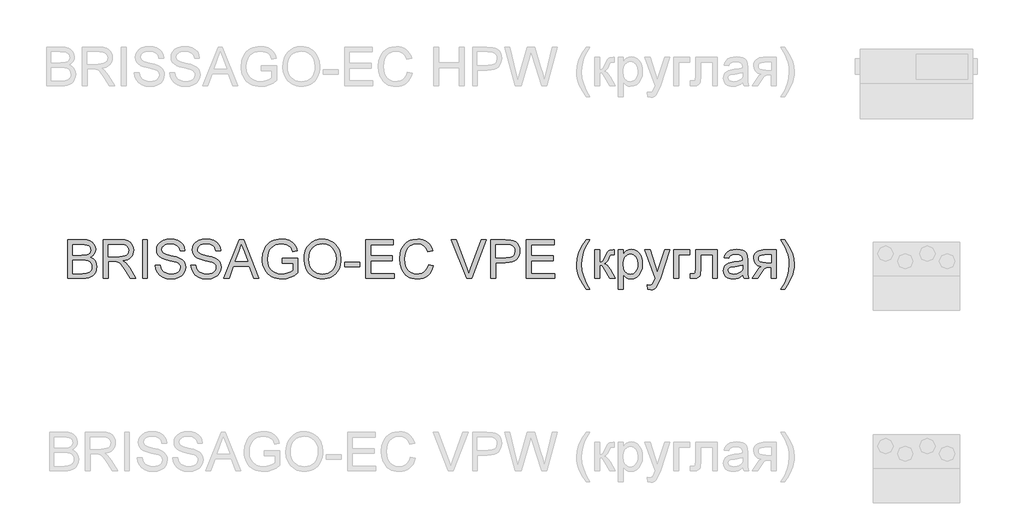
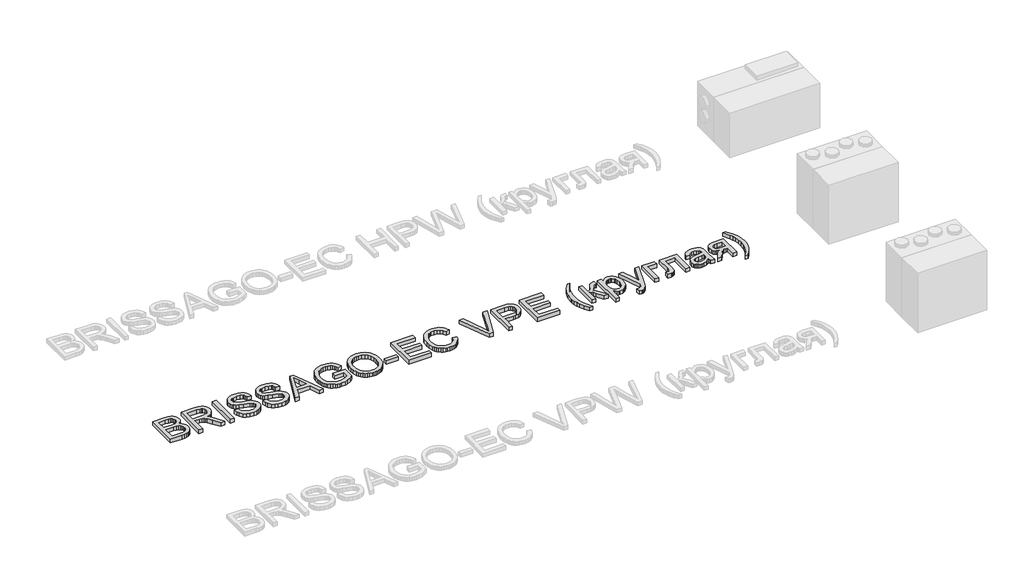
# One storey, part 6 of 28: 1 proxy.
"""IFC4 building model written with IfcOpenShell, lengths in millimetres."""

from ifc_helpers import new_model, si_unit, origin, origin_with_axes, place, context, project, spatial, polyline, outline, extrude, element, save

model = new_model("IFC4")

# Units and contexts
model_context = context("Model", 3, world=origin())
ifc_project = project(units=[si_unit("LENGTHUNIT", "METRE", prefix="MILLI")], contexts=[model_context])

# Site, building, storey
site = spatial("IfcSite", under=ifc_project)
building = spatial("IfcBuilding", under=site)
storey = spatial("IfcBuildingStorey", under=building, Name="Уровень 1", Elevation=0.0)

# Proxy
placement = place(None, origin())
element("IfcBuildingElementProxy", 1, Name="400 мм Arial", ObjectType="400 мм Arial", at=placement, inside=storey, context=model_context, shape_type="SweptSolid", body=[
    extrude(outline(polyline([(-29494.216891, -10348.7092589), (-29494.216891, -9946.8840183), (-29340.8836754, -9946.8840183), (-29298.712136, -9949.839337), (-29265.7866974, -9958.705293), (-29240.5499926, -9973.7026157), (-29221.4446543, -9995.0520342), (-29209.4149131, -10020.1661117), (-29205.4049993, -10046.4574116), (-29208.7772509, -10070.6517842), (-29218.8940058, -10093.3991542), (-29235.8288403, -10113.3015701), (-29259.6553309, -10128.9610804), (-29231.1935272, -10143.823513), (-29210.1629398, -10166.435993), (-29197.1767053, -10195.3024669), (-29192.8479605, -10228.9268812), (-29195.8032792, -10256.9472265), (-29204.6692353, -10282.9319581), (-29217.9007244, -10305.0294033), (-29233.9526421, -10321.3878893), (-29253.6098034, -10333.2336896), (-29277.6570232, -10341.7930773), (-29306.8791163, -10346.9802135), (-29342.0608978, -10348.7092589), (-29494.216891, -10348.7092589)]), holes=[polyline([(-29443.9887359, -10110.1255223), (-29352.2634918, -10110.1255223), (-29298.6998733, -10105.8090402), (-29279.9501543, -10098.3655611), (-29266.4734105, -10087.2187367), (-29258.3432184, -10072.5402451), (-29255.6331544, -10054.5017646), (-29258.1592774, -10036.9905816), (-29265.7376465, -10021.7357415), (-29278.0249052, -10009.8286276), (-29294.6776968, -10002.3606231), (-29320.2332327, -9998.4242858), (-29359.2287242, -9997.1121733), (-29443.9887359, -9997.1121733), (-29443.9887359, -10110.1255223)]), polyline([(-29443.9887359, -10298.4811038), (-29340.9817773, -10298.4811038), (-29303.7030684, -10296.5190665), (-29272.1633187, -10285.5807085), (-29260.5872986, -10276.1506667), (-29251.2676214, -10263.2625341), (-29245.1239921, -10247.4926593), (-29243.0761156, -10229.4173906), (-29245.4796113, -10208.4235914), (-29252.6900984, -10190.3728481), (-29265.2839254, -10176.2584423), (-29283.8374407, -10167.0736551), (-29310.1164779, -10162.0336718), (-29345.8868705, -10160.3536773), (-29443.9887359, -10160.3536773), (-29443.9887359, -10298.4811038)])]), origin_with_axes(), (0.0, 0.0, 1.0), 50.0),
    extrude(outline(polyline([(-29123.7842473, -10348.7092589), (-29123.7842473, -9946.8840183), (-28950.6344549, -9946.8840183), (-28904.0973825, -9949.5940823), (-28870.2399762, -9957.7242744), (-28845.4937807, -9972.7338598), (-28826.2903405, -9996.0821037), (-28813.9662937, -10025.0344168), (-28809.8582781, -10056.8562094), (-28811.5597323, -10077.4943893), (-28816.664095, -10096.440312), (-28825.1713661, -10113.6939776), (-28837.0815457, -10129.255386), (-28852.547918, -10142.6278965), (-28871.7237669, -10153.3148685), (-28894.6090927, -10161.3163019), (-28921.2038953, -10166.6321967), (-28892.6562525, -10188.1165052), (-28851.9439783, -10239.8161883), (-28784.9404043, -10348.7092589), (-28843.3110142, -10348.7092589), (-28895.5993084, -10265.4207751), (-28933.3685266, -10210.2875268), (-28947.4093561, -10194.2110836), (-28959.9050812, -10184.2414815), (-28983.7928854, -10174.6765497), (-29012.9291394, -10172.9107161), (-29073.5560922, -10172.9107161), (-29073.5560922, -10348.7092589), (-29123.7842473, -10348.7092589)]), holes=[polyline([(-29073.5560922, -10122.682561), (-28961.1313545, -10122.682561), (-28928.8435781, -10120.9044647), (-28903.7908142, -10115.5701758), (-28884.9307306, -10106.324075), (-28871.2209949, -10092.810543), (-28862.8700736, -10076.4643197), (-28860.0864332, -10058.7201448), (-28865.3961966, -10034.2192039), (-28881.325487, -10014.4762035), (-28893.4870526, -10006.8794403), (-28908.7326957, -10001.4531809), (-28948.4762139, -9997.1121733), (-29073.5560922, -9997.1121733), (-29073.5560922, -10122.682561)])]), origin_with_axes(), (0.0, 0.0, 1.0), 50.0),
    extrude(outline(polyline([(-28715.6804873, -10348.7092589), (-28715.6804873, -9946.8840183), (-28665.4523323, -9946.8840183), (-28665.4523323, -10348.7092589), (-28715.6804873, -10348.7092589)])), origin_with_axes(), (0.0, 0.0, 1.0), 50.0),
    extrude(outline(polyline([(-28583.8315803, -10210.5818324), (-28533.6034252, -10210.5818324), (-28527.8399406, -10238.4550249), (-28517.4166174, -10260.8590384), (-28501.1562332, -10278.6400015), (-28477.8815656, -10292.6440428), (-28449.4320247, -10301.7307281), (-28417.6470203, -10304.7596232), (-28389.6634632, -10302.4664921), (-28365.1625223, -10295.5870988), (-28345.3091573, -10284.6977917), (-28331.2683278, -10270.3749194), (-28322.9174065, -10253.9305942), (-28320.1337661, -10236.6769286), (-28322.2184308, -10219.8647214), (-28328.4724247, -10205.3333826), (-28341.1766162, -10192.9357594), (-28362.6118738, -10182.5246989), (-28435.7468145, -10163.3457842), (-28483.7554148, -10150.6538554), (-28514.4735614, -10138.5750632), (-28539.4772744, -10121.6770169), (-28557.1969238, -10101.1982525), (-28567.7551371, -10077.5802284), (-28571.2745415, -10051.264403), (-28566.9212712, -10021.8461061), (-28553.8614604, -9994.414372), (-28532.4384655, -9971.1642299), (-28502.9956432, -9954.2907091), (-28467.6544462, -9944.0268014), (-28428.5363274, -9940.6054989), (-28386.1563215, -9944.186217), (-28349.0738164, -9954.9283712), (-28318.6131872, -9972.6112325), (-28296.0988091, -9997.0140715), (-28281.8495131, -10026.6163093), (-28276.1841304, -10059.8973672), (-28326.4122855, -10059.8973672), (-28335.6338608, -10029.9272473), (-28343.9970449, -10018.0691843), (-28354.8618265, -10008.295786), (-28384.9055227, -9995.199187), (-28426.5742901, -9990.8336539), (-28469.224076, -9995.150136), (-28485.5273798, -10000.5457386), (-28498.4829574, -10008.0995823), (-28515.4055292, -10027.1558696), (-28521.0463864, -10049.792875), (-28517.0487354, -10069.0944171), (-28505.0557824, -10084.6190373), (-28476.7043433, -10098.5004512), (-28423.0426229, -10112.6761708), (-28367.6641199, -10126.1406518), (-28334.1623329, -10137.8883502), (-28305.5288509, -10156.1107716), (-28285.5528586, -10178.6006243), (-28273.8174229, -10205.1126534), (-28269.905611, -10235.4016043), (-28274.4060341, -10266.3650056), (-28287.9073033, -10295.4889969), (-28309.8575957, -10320.5540235), (-28339.7050883, -10339.3405307), (-28375.5981083, -10351.0759664), (-28415.684983, -10354.9877782), (-28464.8953312, -10350.769398), (-28505.3991389, -10338.1142574), (-28537.6623899, -10316.9733054), (-28562.151068, -10287.2974911), (-28577.8718919, -10251.1469537), (-28583.8315803, -10210.5818324)])), origin_with_axes(), (0.0, 0.0, 1.0), 50.0),
    extrude(outline(polyline([(-28213.3989366, -10210.5818324), (-28163.1707815, -10210.5818324), (-28157.4072969, -10238.4550249), (-28146.9839737, -10260.8590384), (-28130.7235895, -10278.6400015), (-28107.448922, -10292.6440428), (-28078.999381, -10301.7307281), (-28047.2143766, -10304.7596232), (-28019.2308195, -10302.4664921), (-27994.7298786, -10295.5870988), (-27974.8765136, -10284.6977917), (-27960.8356842, -10270.3749194), (-27952.4847629, -10253.9305942), (-27949.7011224, -10236.6769286), (-27951.7857871, -10219.8647214), (-27958.039781, -10205.3333826), (-27970.7439726, -10192.9357594), (-27992.1792301, -10182.5246989), (-28065.3141708, -10163.3457842), (-28113.3227712, -10150.6538554), (-28144.0409178, -10138.5750632), (-28169.0446307, -10121.6770169), (-28186.7642801, -10101.1982525), (-28197.3224934, -10077.5802284), (-28200.8418978, -10051.264403), (-28196.4886275, -10021.8461061), (-28183.4288167, -9994.414372), (-28162.0058219, -9971.1642299), (-28132.5629995, -9954.2907091), (-28097.2218025, -9944.0268014), (-28058.1036837, -9940.6054989), (-28015.7236778, -9944.186217), (-27978.6411727, -9954.9283712), (-27948.1805435, -9972.6112325), (-27925.6661654, -9997.0140715), (-27911.4168695, -10026.6163093), (-27905.7514867, -10059.8973672), (-27955.9796418, -10059.8973672), (-27965.2012172, -10029.9272473), (-27973.5644012, -10018.0691843), (-27984.4291828, -10008.295786), (-28014.4728791, -9995.199187), (-28056.1416464, -9990.8336539), (-28098.7914323, -9995.150136), (-28115.0947361, -10000.5457386), (-28128.0503137, -10008.0995823), (-28144.9728855, -10027.1558696), (-28150.6137427, -10049.792875), (-28146.6160917, -10069.0944171), (-28134.6231387, -10084.6190373), (-28106.2716996, -10098.5004512), (-28052.6099792, -10112.6761708), (-27997.2314762, -10126.1406518), (-27963.7296892, -10137.8883502), (-27935.0962072, -10156.1107716), (-27915.1202149, -10178.6006243), (-27903.3847792, -10205.1126534), (-27899.4729674, -10235.4016043), (-27903.9733904, -10266.3650056), (-27917.4746597, -10295.4889969), (-27939.424952, -10320.5540235), (-27969.2724446, -10339.3405307), (-28005.1654646, -10351.0759664), (-28045.2523393, -10354.9877782), (-28094.4626875, -10350.769398), (-28134.9664952, -10338.1142574), (-28167.2297462, -10316.9733054), (-28191.7184243, -10287.2974911), (-28207.4392483, -10251.1469537), (-28213.3989366, -10210.5818324)])), origin_with_axes(), (0.0, 0.0, 1.0), 50.0),
    extrude(outline(polyline([(-27870.9253245, -10348.7092589), (-27710.5287746, -9946.8840183), (-27667.7563613, -9946.8840183), (-27507.3598114, -10348.7092589), (-27560.4329206, -10348.7092589), (-27606.4426955, -10223.1388712), (-27771.9405424, -10223.1388712), (-27817.8522154, -10348.7092589), (-27870.9253245, -10348.7092589)]), holes=[polyline([(-27753.4973917, -10172.9107161), (-27624.7877443, -10172.9107161), (-27660.9873326, -10074.1221377), (-27689.142568, -9997.1121733), (-27714.1585437, -10065.4891735), (-27753.4973917, -10172.9107161)])]), origin_with_axes(), (0.0, 0.0, 1.0), 50.0),
    extrude(outline(polyline([(-27265.3425095, -10191.7462742), (-27265.3425095, -10141.5181192), (-27102.1010055, -10141.5181192), (-27102.1010055, -10291.7120751), (-27141.7709474, -10319.3032247), (-27182.691688, -10339.0952761), (-27224.7651255, -10351.0146527), (-27267.893158, -10354.9877782), (-27296.7443035, -10353.4089513), (-27324.240417, -10348.6724707), (-27350.3814984, -10340.7783362), (-27375.1675478, -10329.7265479), (-27397.7984219, -10315.6826527), (-27417.4739773, -10298.8121976), (-27434.194214, -10279.1151824), (-27447.9591319, -10256.5916073), (-27458.7104833, -10231.9619077), (-27466.3900199, -10205.9465193), (-27470.9977419, -10178.545442), (-27472.5336492, -10149.7586759), (-27466.4145454, -10093.1661623), (-27458.7656656, -10066.3506305), (-27448.0572338, -10040.5222488), (-27434.4793225, -10016.8153199), (-27418.222004, -9996.3641466), (-27399.2852783, -9979.168729), (-27377.6691454, -9965.2290671), (-27353.8426548, -9954.456256), (-27328.2748562, -9946.7613909), (-27300.9657494, -9942.1444719), (-27271.9153345, -9940.6054989), (-27230.5408728, -9944.1739542), (-27193.3357404, -9954.8793203), (-27162.0044571, -9971.9490449), (-27138.2515429, -9994.6105758), (-27120.6790463, -10023.9552962), (-27107.8890156, -10061.0745896), (-27154.1930961, -10074.1221377), (-27164.5305801, -10047.6468967), (-27177.0998816, -10027.6709044), (-27193.7281478, -10012.6122681), (-27216.2425259, -10000.8890952), (-27243.0856488, -9993.3475143), (-27272.7001494, -9990.8336539), (-27307.3668961, -9993.543718), (-27337.0059222, -10001.6739101), (-27361.5068631, -10014.2064234), (-27380.7593542, -10030.123451), (-27395.5359476, -10048.6033899), (-27406.6091957, -10068.8246369), (-27418.3814195, -10106.7410079), (-27422.3054942, -10147.6985367), (-27417.5843419, -10195.7316625), (-27403.4208851, -10235.2544515), (-27380.2443194, -10265.9848609), (-27348.4838405, -10287.6408477), (-27311.3154962, -10300.4799293), (-27271.9153345, -10304.7596232), (-27237.1259605, -10301.5345243), (-27203.1949778, -10291.8592279), (-27173.72763, -10278.5296369), (-27152.3291606, -10264.3416546), (-27152.3291606, -10191.7462742), (-27265.3425095, -10191.7462742)])), origin_with_axes(), (0.0, 0.0, 1.0), 50.0),
    extrude(outline(polyline([(-27039.3158117, -10153.0941393), (-27035.9680856, -10105.9623243), (-27025.9249071, -10064.2383747), (-27009.1862763, -10027.9222904), (-26985.7521932, -9997.0140715), (-26957.0267408, -9972.335321), (-26924.4140019, -9954.707642), (-26887.9139766, -9944.1310347), (-26847.5266649, -9940.6054989), (-26820.4934696, -9942.2609679), (-26794.8214377, -9947.2273748), (-26770.5105692, -9955.5047197), (-26747.5608641, -9967.0930025), (-26726.6161158, -9981.6427354), (-26708.3201179, -9998.8044305), (-26692.6728704, -10018.5780878), (-26679.6743732, -10040.9637072), (-26669.4595165, -10065.4523853), (-26662.1631903, -10091.5352188), (-26656.3261293, -10148.4833516), (-26657.8620366, -10178.1407718), (-26662.4697586, -10206.1917739), (-26670.1492952, -10232.636358), (-26680.9006465, -10257.4745241), (-26694.4693608, -10280.0502158), (-26710.6009863, -10299.7073771), (-26729.295523, -10316.4460079), (-26750.552971, -10330.2661082), (-26773.5363986, -10341.0818388), (-26797.4088744, -10348.8073607), (-26822.1703984, -10353.4426739), (-26847.8209705, -10354.9877782), (-26875.326281, -10353.2801926), (-26901.335538, -10348.1574359), (-26925.8487417, -10339.6195079), (-26948.8658918, -10327.6664087), (-26969.7861146, -10312.7610566), (-26988.0085361, -10295.3663696), (-27003.5331563, -10275.4823477), (-27016.3599752, -10253.108991), (-27033.5768526, -10204.487254), (-27039.3158117, -10153.0941393)]), holes=[polyline([(-26989.0876566, -10153.5846486), (-26986.576862, -10186.8841005), (-26979.0444782, -10216.4434189), (-26966.4905051, -10242.2626036), (-26948.9149428, -10264.3416546), (-26927.5501959, -10282.0245159), (-26903.6286692, -10294.655131), (-26877.1503625, -10302.2335001), (-26848.1152761, -10304.7596232), (-26818.5835489, -10302.2089747), (-26791.7925426, -10294.5570292), (-26767.7422572, -10281.8037867), (-26746.4326926, -10263.9492472), (-26728.985889, -10241.4042122), (-26716.5238864, -10214.5794834), (-26709.0466849, -10183.4750607), (-26706.5542843, -10148.0909442), (-26710.8217155, -10103.6262737), (-26723.6240089, -10065.1948679), (-26744.6300708, -10033.7654828), (-26773.5088075, -10010.3068742), (-26808.3472324, -9995.701959), (-26847.2323593, -9990.8336539), (-26875.258836, -9993.1789017), (-26901.2619616, -10000.2146448), (-26925.2417364, -10011.9408834), (-26947.1981601, -10028.3576175), (-26965.5248148, -10050.2557932), (-26978.6152825, -10078.426357), (-26986.4695631, -10112.8693088), (-26989.0876566, -10153.5846486)])]), origin_with_axes(), (0.0, 0.0, 1.0), 50.0),
    extrude(outline(polyline([(-26618.655013, -10229.4173906), (-26618.655013, -10179.1892355), (-26461.6920283, -10179.1892355), (-26461.6920283, -10229.4173906), (-26618.655013, -10229.4173906)])), origin_with_axes(), (0.0, 0.0, 1.0), 50.0),
    extrude(outline(polyline([(-26398.9068345, -10348.7092589), (-26398.9068345, -9946.8840183), (-26110.0949428, -9946.8840183), (-26110.0949428, -9997.1121733), (-26348.6786794, -9997.1121733), (-26348.6786794, -10116.4040416), (-26122.6519816, -10116.4040416), (-26122.6519816, -10166.6321967), (-26348.6786794, -10166.6321967), (-26348.6786794, -10298.4811038), (-26103.8164234, -10298.4811038), (-26103.8164234, -10348.7092589), (-26398.9068345, -10348.7092589)])), origin_with_axes(), (0.0, 0.0, 1.0), 50.0),
    extrude(outline(polyline([(-25745.9408185, -10205.8729429), (-25695.7126635, -10218.8223891), (-25705.6516087, -10250.0586362), (-25718.8892292, -10277.3524145), (-25735.4255248, -10300.7037242), (-25755.2604957, -10320.1125651), (-25777.9465521, -10335.3704708), (-25803.0361042, -10346.268975), (-25830.529152, -10352.8080774), (-25860.4256954, -10354.9877782), (-25891.0549372, -10353.3384406), (-25918.6859407, -10348.3904278), (-25943.318706, -10340.1437397), (-25964.953233, -10328.5983765), (-25983.886893, -10313.9260162), (-26000.4170573, -10296.2983373), (-26014.5437259, -10275.7153396), (-26026.2668989, -10252.1770233), (-26042.0490364, -10200.305662), (-26047.309749, -10144.7554807), (-26041.3623234, -10086.1641416), (-26033.9280414, -10059.8667103), (-26023.5200466, -10035.5681046), (-26010.371331, -10013.6699288), (-25994.7148864, -9994.5737876), (-25976.5507129, -9978.2796809), (-25955.8788104, -9964.7876087), (-25933.4012205, -9954.2079356), (-25909.8199846, -9946.6510263), (-25859.3465749, -9940.6054989), (-25830.6180568, -9942.5614048), (-25804.2746402, -9948.4291226), (-25780.3163253, -9958.2086523), (-25758.743112, -9971.8999939), (-25739.9106195, -9989.1413968), (-25724.1744671, -10009.5711102), (-25711.5346549, -10033.1891343), (-25701.9911828, -10059.995469), (-25752.2193379, -10071.9638966), (-25769.632419, -10035.3351126), (-25793.4221214, -10010.2087724), (-25823.8827506, -9995.6774336), (-25861.3086122, -9990.8336539), (-25904.4489075, -9996.2047311), (-25923.1311815, -10002.9185775), (-25939.8882064, -10012.3179625), (-25966.7803802, -10037.4810909), (-25984.2793005, -10070.0018593), (-25993.8810205, -10106.7655334), (-25997.0815939, -10144.6573789), (-25993.2924094, -10191.0595612), (-25981.9248557, -10231.1832241), (-25962.5497373, -10263.495526), (-25934.7378585, -10286.4636253), (-25901.395487, -10300.1856237), (-25865.4288906, -10304.7596232), (-25843.5920285, -10303.2022561), (-25823.5026058, -10298.5301547), (-25805.1606227, -10290.7433192), (-25788.566079, -10279.8417494), (-25774.1113823, -10265.8744963), (-25762.18894, -10248.8906108), (-25752.7987521, -10228.890093), (-25745.9408185, -10205.8729429)])), origin_with_axes(), (0.0, 0.0, 1.0), 50.0),
    extrude(outline(polyline([(-25350.9827085, -10348.7092589), (-25510.8887491, -9946.8840183), (-25457.1289268, -9946.8840183), (-25350.0997917, -10236.382623), (-25328.4192795, -10301.6203635), (-25307.0330728, -10236.382623), (-25199.7096321, -9946.8840183), (-25145.9498099, -9946.8840183), (-25299.0868217, -10348.7092589), (-25350.9827085, -10348.7092589)])), origin_with_axes(), (0.0, 0.0, 1.0), 50.0),
    extrude(outline(polyline([(-25099.2533219, -10348.7092589), (-25099.2533219, -9946.8840183), (-24950.3346903, -9946.8840183), (-24890.2963487, -9950.709991), (-24863.5268022, -9957.8591644), (-24841.4906707, -9969.4964982), (-24823.7464958, -9986.1492899), (-24809.8528191, -10008.3448369), (-24800.8764984, -10034.5257722), (-24797.8843915, -10063.1347287), (-24799.9046768, -10087.8012165), (-24805.9655327, -10110.4934042), (-24816.0669591, -10131.2112919), (-24830.2089561, -10149.9548796), (-24849.6239284, -10165.4917625), (-24875.5442807, -10176.589536), (-24907.9700129, -10183.2482002), (-24946.901125, -10185.4677549), (-25049.0251669, -10185.4677549), (-25049.0251669, -10348.7092589), (-25099.2533219, -10348.7092589)]), holes=[polyline([(-25049.0251669, -10135.2395998), (-24943.958069, -10135.2395998), (-24899.4198222, -10130.6288121), (-24882.8160814, -10124.8653275), (-24869.9892625, -10116.7964491), (-24860.4181993, -10106.6367747), (-24853.5817256, -10094.6009021), (-24848.1125466, -10064.9005623), (-24851.3376454, -10042.3371333), (-24861.0129419, -10023.3053714), (-24875.9366881, -10008.982499), (-24894.9071364, -10000.5457386), (-24945.1352914, -9997.1121733), (-25049.0251669, -9997.1121733), (-25049.0251669, -10135.2395998)])]), origin_with_axes(), (0.0, 0.0, 1.0), 50.0),
    extrude(outline(polyline([(-24728.8206783, -10348.7092589), (-24728.8206783, -9946.8840183), (-24440.0087866, -9946.8840183), (-24440.0087866, -9997.1121733), (-24678.5925232, -9997.1121733), (-24678.5925232, -10116.4040416), (-24452.5658254, -10116.4040416), (-24452.5658254, -10166.6321967), (-24678.5925232, -10166.6321967), (-24678.5925232, -10298.4811038), (-24433.7302672, -10298.4811038), (-24433.7302672, -10348.7092589), (-24728.8206783, -10348.7092589)])), origin_with_axes(), (0.0, 0.0, 1.0), 50.0),
    extrude(outline(polyline([(-24107.2472592, -10461.7226078), (-24146.1691743, -10407.1043942), (-24178.5673153, -10343.9022675), (-24191.3144265, -10309.8486574), (-24200.4195059, -10275.1819108), (-24205.8825535, -10239.9020274), (-24207.7035694, -10204.0090074), (-24202.2589158, -10141.5916956), (-24185.9249552, -10081.872185), (-24153.5022887, -10014.2309488), (-24107.2472592, -9946.8840183), (-24069.5761429, -9946.8840183), (-24116.5669364, -10026.4446311), (-24132.6065914, -10064.2138493), (-24144.8202737, -10103.5526973), (-24154.3116291, -10153.8053778), (-24157.4754143, -10204.303313), (-24151.9817098, -10268.6949249), (-24135.5005964, -10333.0620113), (-24108.0320741, -10397.4045723), (-24069.5761429, -10461.7226078), (-24107.2472592, -10461.7226078)])), origin_with_axes(), (0.0, 0.0, 1.0), 50.0),
    extrude(outline(polyline([(-24019.3479878, -10053.6188478), (-23969.1198328, -10053.6188478), (-23969.1198328, -10179.1892355), (-23948.6901193, -10176.9328926), (-23935.4708929, -10170.1638639), (-23923.7722455, -10152.5055281), (-23907.9042688, -10117.581264), (-23884.9974832, -10072.2091513), (-23875.5551787, -10063.0488896), (-23864.7884989, -10057.4448205), (-23828.0493503, -10053.6188478), (-23818.4353675, -10053.6188478), (-23818.4353675, -10104.1413085), (-23831.973425, -10103.8470029), (-23847.6697234, -10105.1713781), (-23856.4988913, -10109.1445036), (-23873.7648196, -10142.2048322), (-23884.3720838, -10164.2409637), (-23894.0228548, -10177.9629622), (-23905.7092395, -10187.1232238), (-23922.4233448, -10195.4741451), (-23906.5063172, -10202.5436108), (-23890.7364423, -10215.0209418), (-23875.1137203, -10232.9061381), (-23859.638151, -10256.1991998), (-23805.8783288, -10348.7092589), (-23862.9736144, -10348.7092589), (-23915.6543161, -10258.1612371), (-23929.8790866, -10234.0649664), (-23942.1418198, -10219.8524587), (-23954.5271803, -10212.899489), (-23969.1198328, -10210.5818324), (-23969.1198328, -10348.7092589), (-24019.3479878, -10348.7092589), (-24019.3479878, -10053.6188478)])), origin_with_axes(), (0.0, 0.0, 1.0), 50.0),
    extrude(outline(polyline([(-23774.4857318, -10461.7226078), (-23774.4857318, -10053.6188478), (-23724.2575768, -10053.6188478), (-23724.2575768, -10102.8659842), (-23707.8745653, -10078.5735098), (-23689.5295164, -10061.2217424), (-23668.1433098, -10050.8106819), (-23642.6368248, -10047.3403284), (-23608.6690539, -10052.1963707), (-23578.9687141, -10066.7644978), (-23554.7866043, -10090.1617926), (-23537.3735232, -10121.5053386), (-23526.8520982, -10158.5142674), (-23523.3449565, -10198.9077104), (-23527.3058193, -10241.8640647), (-23539.1884077, -10280.2832078), (-23558.6125771, -10312.2153649), (-23585.1981826, -10335.7107617), (-23616.1615839, -10350.1685241), (-23648.7191404, -10354.9877782), (-23671.809867, -10351.7626794), (-23692.4235215, -10342.0873829), (-23710.0695945, -10327.4824677), (-23724.2575768, -10309.4685127), (-23724.2575768, -10461.7226078), (-23774.4857318, -10461.7226078)]), holes=[polyline([(-23724.2575768, -10203.5184981), (-23718.825186, -10248.5472543), (-23712.0346975, -10265.9848609), (-23702.5280136, -10280.0379531), (-23678.4807938, -10298.5792056), (-23664.7189415, -10303.2145188), (-23649.7982609, -10304.7596232), (-23634.6629825, -10303.1593365), (-23620.6497442, -10298.3584765), (-23607.7585459, -10290.3570431), (-23595.9893878, -10279.1550363), (-23586.1822669, -10264.5930407), (-23579.1771806, -10246.5116406), (-23574.9741288, -10224.9108361), (-23573.5731115, -10199.7906272), (-23579.0422905, -10155.0071257), (-23585.8787643, -10137.434629), (-23595.4498275, -10123.0749685), (-23619.4602591, -10103.9451047), (-23633.0657615, -10099.1626388), (-23647.7381218, -10097.5684835), (-23662.3644968, -10099.2638063), (-23676.1263491, -10104.3497749), (-23701.0564856, -10124.6936493), (-23711.206963, -10139.7921395), (-23718.457304, -10157.9624444), (-23722.8075086, -10179.2045639), (-23724.2575768, -10203.5184981)])]), origin_with_axes(), (0.0, 0.0, 1.0), 50.0),
    extrude(outline(polyline([(-23466.838282, -10461.7226078), (-23473.1168014, -10413.3583881), (-23447.6103164, -10417.7729721), (-23434.1948863, -10416.3872832), (-23423.7715631, -10412.2302167), (-23409.1543852, -10396.7791729), (-23395.420124, -10359.7947696), (-23391.4960494, -10347.6301383), (-23498.2308789, -10053.6188478), (-23445.2558716, -10053.6188478), (-23388.6510953, -10217.448963), (-23368.9326204, -10282.9810091), (-23349.2141454, -10225.1009085), (-23291.0397392, -10053.6188478), (-23238.4571394, -10053.6188478), (-23341.1697925, -10355.7725932), (-23367.8534998, -10421.3046392), (-23381.5141846, -10442.224862), (-23396.9897539, -10456.7194126), (-23414.9669207, -10465.1806985), (-23436.1323981, -10468.0011272), (-23466.838282, -10461.7226078)])), origin_with_axes(), (0.0, 0.0, 1.0), 50.0),
    extrude(outline(polyline([(-23196.8619485, -10053.6188478), (-23033.6204445, -10053.6188478), (-23033.6204445, -10103.8470029), (-23146.6337934, -10103.8470029), (-23146.6337934, -10348.7092589), (-23196.8619485, -10348.7092589), (-23196.8619485, -10053.6188478)])), origin_with_axes(), (0.0, 0.0, 1.0), 50.0),
    extrude(outline(polyline([(-22970.8352506, -10053.6188478), (-22744.8085528, -10053.6188478), (-22744.8085528, -10348.4149533), (-22795.0367079, -10348.4149533), (-22795.0367079, -10103.8470029), (-22920.6070956, -10103.8470029), (-22920.6070956, -10244.6231797), (-22923.9916099, -10309.5666146), (-22930.331443, -10324.2696316), (-22942.5819134, -10336.9860859), (-22961.1722169, -10345.7784656), (-22986.5315491, -10348.7092589), (-23027.3419251, -10346.1586104), (-23027.3419251, -10298.4811038), (-23004.8765979, -10298.4811038), (-22982.1660161, -10295.390895), (-22973.0915936, -10285.5807085), (-22970.8352506, -10241.7782256), (-22970.8352506, -10053.6188478)])), origin_with_axes(), (0.0, 0.0, 1.0), 50.0),
    extrude(outline(polyline([(-22481.1107387, -10311.0381426), (-22505.1089075, -10331.6150088), (-22529.8183148, -10345.0794898), (-22555.8030464, -10352.5107061), (-22583.627188, -10354.9877782), (-22605.9913476, -10353.4978562), (-22625.6025236, -10349.0280899), (-22642.4607161, -10341.5784795), (-22656.5659249, -10331.149025), (-22667.7035523, -10318.4019138), (-22675.6590005, -10303.9993337), (-22680.4322693, -10287.9412846), (-22682.023359, -10270.2277666), (-22679.6198633, -10249.4056456), (-22672.4093762, -10230.4965111), (-22661.2870772, -10214.3097033), (-22647.1481458, -10201.6545627), (-22630.5321424, -10192.0896308), (-22611.9786271, -10185.1734493), (-22568.5195007, -10177.6196056), (-22517.1631742, -10169.6733545), (-22481.4050443, -10160.3536773), (-22481.1107387, -10149.1700647), (-22484.5688294, -10126.7537884), (-22494.9431017, -10112.0875596), (-22518.1441928, -10101.1982525), (-22550.4687575, -10097.5684835), (-22580.3898264, -10099.9842419), (-22601.2855238, -10107.2315172), (-22615.5348197, -10120.6346846), (-22625.5166845, -10141.5181192), (-22675.7448396, -10135.2395998), (-22667.0260363, -10107.7710775), (-22654.0152764, -10086.1886671), (-22635.4985493, -10069.6830282), (-22610.2618444, -10057.4448205), (-22579.396545, -10049.8664514), (-22543.9940344, -10047.3403284), (-22510.0385262, -10049.5721458), (-22483.1218269, -10056.2675982), (-22462.8270035, -10066.3353021), (-22448.7371231, -10078.6838744), (-22439.3929204, -10093.9509772), (-22433.3351302, -10112.7742726), (-22430.8825836, -10156.7239083), (-22430.8825836, -10219.2147966), (-22428.3319351, -10306.4764058), (-22418.3255448, -10348.7092589), (-22468.5536999, -10348.7092589), (-22476.5980529, -10331.2471268), (-22481.1107387, -10311.0381426)]), holes=[polyline([(-22481.1107387, -10210.5818324), (-22514.8577804, -10218.9450164), (-22562.1428795, -10225.9838253), (-22605.3567512, -10234.1262801), (-22616.6016775, -10239.693561), (-22624.9280733, -10247.3700319), (-22630.0784212, -10256.5670818), (-22631.7952039, -10266.6960994), (-22628.0550703, -10281.6321084), (-22616.8346694, -10293.8703161), (-22598.379256, -10302.0372964), (-22572.9340847, -10304.7596232), (-22545.9560717, -10301.7552535), (-22522.1173184, -10292.7421447), (-22502.7912509, -10279.4616046), (-22489.3512954, -10263.6549416), (-22483.391607, -10247.3700319), (-22481.4050443, -10224.8066029), (-22481.1107387, -10210.5818324)])]), origin_with_axes(), (0.0, 0.0, 1.0), 50.0),
    extrude(outline(polyline([(-22135.7921725, -10053.6188478), (-22135.7921725, -10348.7092589), (-22186.0203276, -10348.7092589), (-22186.0203276, -10235.6959099), (-22213.390748, -10235.6959099), (-22235.2184131, -10237.2900653), (-22250.6694569, -10242.0725312), (-22265.556415, -10255.9784706), (-22285.6918228, -10284.9430464), (-22325.7173839, -10348.7092589), (-22383.7936882, -10348.7092589), (-22333.3693294, -10268.0695255), (-22311.100206, -10239.1294752), (-22290.5969161, -10226.2781309), (-22324.932569, -10215.7567058), (-22338.2744227, -10206.945932), (-22349.0656279, -10195.7684507), (-22363.3394493, -10169.1828452), (-22368.0973897, -10138.8693688), (-22366.4725776, -10120.7818374), (-22361.5981412, -10104.484665), (-22353.4740804, -10089.9778516), (-22342.1003954, -10077.2613973), (-22327.6487644, -10066.9177819), (-22310.2908656, -10059.5294852), (-22290.026699, -10055.0965071), (-22266.8562647, -10053.6188478), (-22135.7921725, -10053.6188478)]), holes=[polyline([(-22186.0203276, -10103.8470029), (-22252.2390867, -10103.8470029), (-22286.4398496, -10106.7532706), (-22305.8517562, -10115.4720739), (-22314.864865, -10128.0904264), (-22317.8692347, -10142.6953416), (-22313.442388, -10161.837468), (-22300.161848, -10175.1180081), (-22275.6241189, -10182.8803182), (-22237.4257051, -10185.4677549), (-22186.0203276, -10185.4677549), (-22186.0203276, -10103.8470029)])]), origin_with_axes(), (0.0, 0.0, 1.0), 50.0),
    extrude(outline(polyline([(-22047.8929011, -10461.7226078), (-22085.5640175, -10461.7226078), (-22047.1080862, -10397.4045723), (-22019.6395639, -10333.0620113), (-22003.1584505, -10268.6949249), (-21997.6647461, -10204.303313), (-22000.8285312, -10154.1732598), (-22010.3198867, -10104.4356141), (-22022.3128397, -10065.0231896), (-22038.2789183, -10027.229446), (-22085.5640175, -9946.8840183), (-22047.8929011, -9946.8840183), (-22001.6378716, -10014.2309488), (-21969.2152051, -10081.872185), (-21952.8812445, -10141.5916956), (-21947.436591, -10204.0090074), (-21949.2668039, -10239.9020274), (-21954.7574427, -10275.1819108), (-21963.9085073, -10309.8486574), (-21976.7199978, -10343.9022675), (-22009.1549271, -10407.1043942), (-22047.8929011, -10461.7226078)])), origin_with_axes(), (0.0, 0.0, 1.0), 50.0),
])

save(model, "model.ifc")
